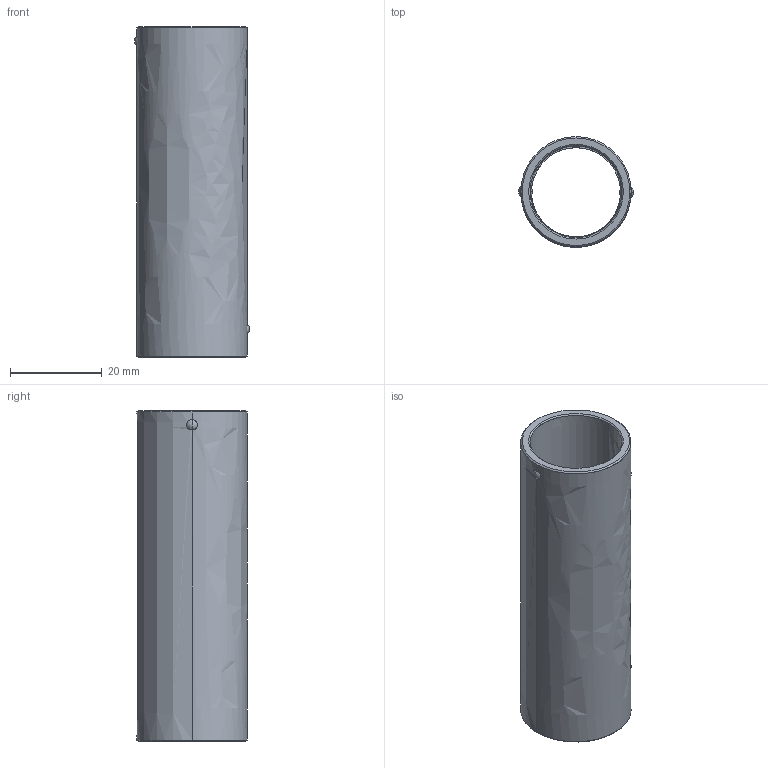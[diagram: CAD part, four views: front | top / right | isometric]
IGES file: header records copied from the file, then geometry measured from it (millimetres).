
Start section: START RECORD GO HERE.
Global section: file name: 730-19x72.igs; native system: DASSAULT SYSTEMES CATIA V5 R20 - www.3ds.com; preprocessor: CATIA Version 5 Release 20 ; author: Utente; organization: NB04-ASUS; date: 20210107.171735; units: millimetre
Bounding box: 25 x 24 x 72 mm (x, y, z)
Surface area: 10382 mm2 (no closed solid volume)
Topology: 0 solids, 0 shells, 44 faces, 240 edges, 240 vertices
Faces by surface type: revolution 36, plane 8
